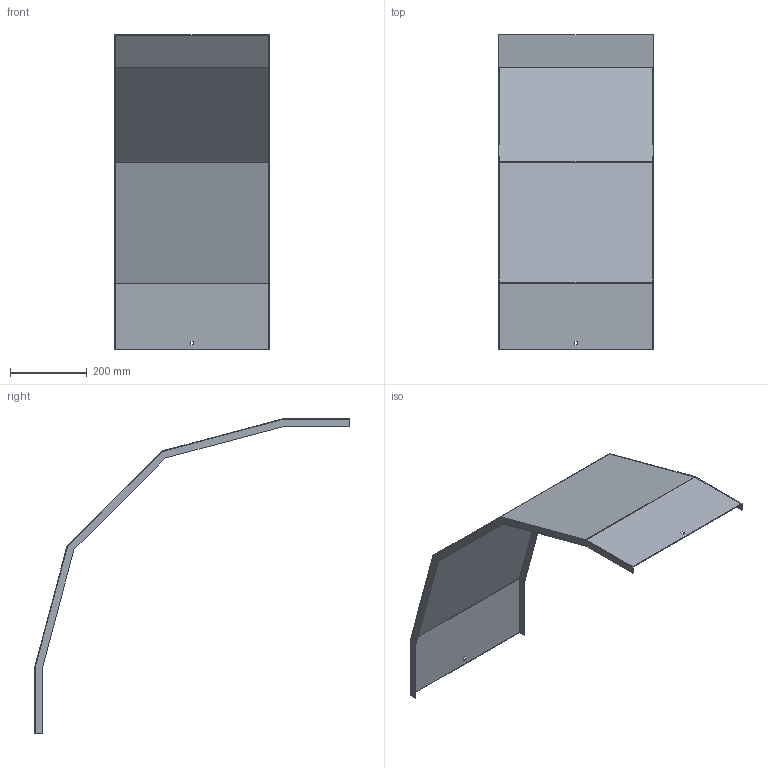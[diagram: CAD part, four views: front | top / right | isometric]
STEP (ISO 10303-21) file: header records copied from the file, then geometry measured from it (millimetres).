
FILE_DESCRIPTION (( 'STEP AP214' ), '1' );
FILE_NAME ('33N5F400.step', '2025-02-21T14:25:43', ( '' ), ( '' ), 'SwSTEP 2.0', 'SolidWorks 2023', '' );
FILE_SCHEMA (( 'AUTOMOTIVE_DESIGN' ));
Length unit declared in the file: millimetre
Products named in the file (1): 33N5F400
Bounding box: 403 x 820.4 x 820.4 mm (x, y, z)
Volume: 888465.1 mm3; surface area: 1189987.8 mm2
Topology: 1 solids, 1 shells, 34 faces, 96 edges, 64 vertices
Faces by surface type: plane 34
Entity records: 1111 total; most frequent: CARTESIAN_POINT 195, ORIENTED_EDGE 192, DIRECTION 166, EDGE_CURVE 96, VECTOR 96, LINE 96, VERTEX_POINT 64, EDGE_LOOP 38
